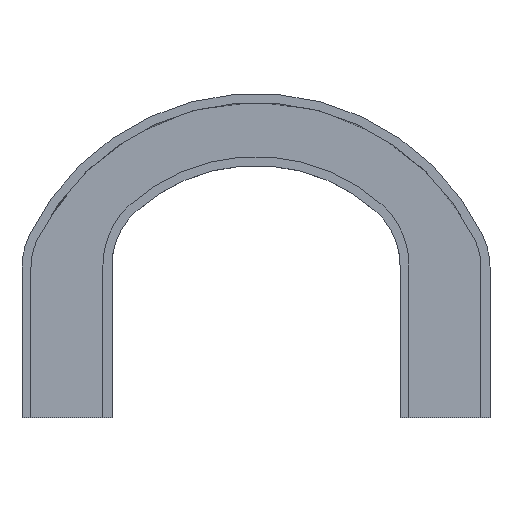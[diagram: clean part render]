
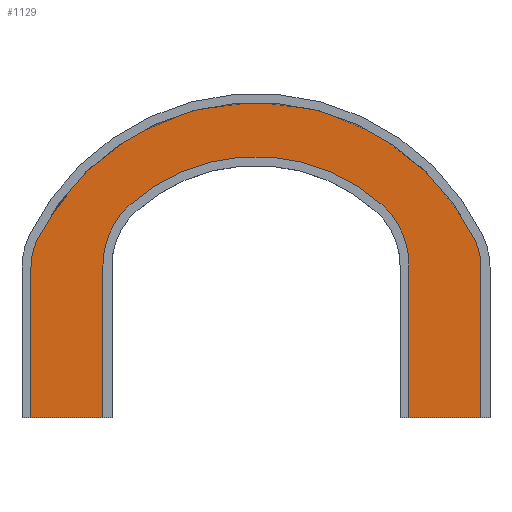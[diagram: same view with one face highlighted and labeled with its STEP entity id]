
A CAD part, top view. The second image highlights one B-rep face of the part: STEP entity #1129.
In plain terms, the highlighted planar face has unit normal (0, 0, 1).
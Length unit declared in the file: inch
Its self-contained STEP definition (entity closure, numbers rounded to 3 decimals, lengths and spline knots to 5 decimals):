
#381=PLANE('',#1196);
#396=CIRCLE('',#1176,1.125);
#398=CIRCLE('',#1181,0.875);
#400=CIRCLE('',#1184,3.375);
#402=CIRCLE('',#1187,0.875);
#404=CIRCLE('',#1192,1.125);
#406=CIRCLE('',#1195,2.625);
#438=FACE_OUTER_BOUND('',#482,.T.);
#482=EDGE_LOOP('',(#961,#962,#963,#964,#965,#966,#967,#968,#969,#970,#971,
#972));
#520=LINE('',#2196,#577);
#523=LINE('',#2204,#580);
#530=LINE('',#2229,#587);
#533=LINE('',#2237,#590);
#536=LINE('',#2249,#593);
#537=LINE('',#2250,#594);
#577=VECTOR('',#1282,0.3937);
#580=VECTOR('',#1287,0.3937);
#587=VECTOR('',#1314,0.3937);
#590=VECTOR('',#1319,0.3937);
#593=VECTOR('',#1336,0.3937);
#594=VECTOR('',#1337,0.3937);
#695=VERTEX_POINT('',#2186);
#696=VERTEX_POINT('',#2188);
#698=VERTEX_POINT('',#2194);
#701=VERTEX_POINT('',#2201);
#702=VERTEX_POINT('',#2203);
#704=VERTEX_POINT('',#2209);
#706=VERTEX_POINT('',#2215);
#708=VERTEX_POINT('',#2221);
#710=VERTEX_POINT('',#2227);
#713=VERTEX_POINT('',#2234);
#714=VERTEX_POINT('',#2236);
#716=VERTEX_POINT('',#2242);
#788=EDGE_CURVE('',#695,#696,#396,.T.);
#792=EDGE_CURVE('',#698,#695,#520,.T.);
#795=EDGE_CURVE('',#701,#702,#523,.T.);
#799=EDGE_CURVE('',#704,#701,#398,.T.);
#802=EDGE_CURVE('',#706,#704,#400,.T.);
#805=EDGE_CURVE('',#708,#706,#402,.T.);
#808=EDGE_CURVE('',#710,#708,#530,.T.);
#811=EDGE_CURVE('',#713,#714,#533,.T.);
#815=EDGE_CURVE('',#716,#713,#404,.T.);
#817=EDGE_CURVE('',#696,#716,#406,.T.);
#818=EDGE_CURVE('',#702,#698,#536,.T.);
#819=EDGE_CURVE('',#714,#710,#537,.T.);
#961=ORIENTED_EDGE('',*,*,#817,.F.);
#962=ORIENTED_EDGE('',*,*,#788,.F.);
#963=ORIENTED_EDGE('',*,*,#792,.F.);
#964=ORIENTED_EDGE('',*,*,#818,.F.);
#965=ORIENTED_EDGE('',*,*,#795,.F.);
#966=ORIENTED_EDGE('',*,*,#799,.F.);
#967=ORIENTED_EDGE('',*,*,#802,.F.);
#968=ORIENTED_EDGE('',*,*,#805,.F.);
#969=ORIENTED_EDGE('',*,*,#808,.F.);
#970=ORIENTED_EDGE('',*,*,#819,.F.);
#971=ORIENTED_EDGE('',*,*,#811,.F.);
#972=ORIENTED_EDGE('',*,*,#815,.F.);
#1129=ADVANCED_FACE('',(#438),#381,.T.);
#1176=AXIS2_PLACEMENT_3D('',#2189,#1275,#1276);
#1181=AXIS2_PLACEMENT_3D('',#2211,#1294,#1295);
#1184=AXIS2_PLACEMENT_3D('',#2217,#1301,#1302);
#1187=AXIS2_PLACEMENT_3D('',#2223,#1308,#1309);
#1192=AXIS2_PLACEMENT_3D('',#2244,#1326,#1327);
#1195=AXIS2_PLACEMENT_3D('',#2247,#1332,#1333);
#1196=AXIS2_PLACEMENT_3D('',#2248,#1334,#1335);
#1275=DIRECTION('center_axis',(0.,0.,1.));
#1276=DIRECTION('ref_axis',(-1.,0.,0.));
#1282=DIRECTION('',(0.,1.,0.));
#1287=DIRECTION('',(0.,-1.,0.));
#1294=DIRECTION('center_axis',(0.,0.,-1.));
#1295=DIRECTION('ref_axis',(1.,0.,0.));
#1301=DIRECTION('center_axis',(0.,0.,-1.));
#1302=DIRECTION('ref_axis',(0.9,0.436,0.));
#1308=DIRECTION('center_axis',(0.,0.,-1.));
#1309=DIRECTION('ref_axis',(-0.9,0.436,0.));
#1314=DIRECTION('',(0.,1.,0.));
#1319=DIRECTION('',(0.,-1.,0.));
#1326=DIRECTION('center_axis',(0.,0.,1.));
#1327=DIRECTION('ref_axis',(0.667,-0.745,0.));
#1332=DIRECTION('center_axis',(0.,0.,1.));
#1333=DIRECTION('ref_axis',(-0.667,-0.745,0.));
#1334=DIRECTION('center_axis',(0.,0.,1.));
#1335=DIRECTION('ref_axis',(1.,0.,0.));
#1336=DIRECTION('',(-1.,0.,0.));
#1337=DIRECTION('',(-1.,0.,0.));
#2186=CARTESIAN_POINT('',(2.125,1.11803,0.1));
#2188=CARTESIAN_POINT('',(1.75,1.95656,0.1));
#2189=CARTESIAN_POINT('Origin',(1.,1.11803,0.1));
#2194=CARTESIAN_POINT('',(2.125,-1.,0.1));
#2196=CARTESIAN_POINT('',(2.125,1.11803,0.1));
#2201=CARTESIAN_POINT('',(3.125,1.08972,0.1));
#2203=CARTESIAN_POINT('',(3.125,-1.,0.1));
#2204=CARTESIAN_POINT('',(3.125,-1.,0.1));
#2209=CARTESIAN_POINT('',(3.0375,1.47113,0.1));
#2211=CARTESIAN_POINT('Origin',(2.25,1.08972,0.1));
#2215=CARTESIAN_POINT('',(-3.0375,1.47113,0.1));
#2217=CARTESIAN_POINT('Origin',(0.,0.,0.1));
#2221=CARTESIAN_POINT('',(-3.125,1.08972,0.1));
#2223=CARTESIAN_POINT('Origin',(-2.25,1.08972,0.1));
#2227=CARTESIAN_POINT('',(-3.125,-1.,0.1));
#2229=CARTESIAN_POINT('',(-3.125,1.08972,0.1));
#2234=CARTESIAN_POINT('',(-2.125,1.11803,0.1));
#2236=CARTESIAN_POINT('',(-2.125,-1.,0.1));
#2237=CARTESIAN_POINT('',(-2.125,-1.,0.1));
#2242=CARTESIAN_POINT('',(-1.75,1.95656,0.1));
#2244=CARTESIAN_POINT('Origin',(-1.,1.11803,0.1));
#2247=CARTESIAN_POINT('Origin',(0.,0.,0.1));
#2248=CARTESIAN_POINT('Origin',(0.,1.1875,0.1));
#2249=CARTESIAN_POINT('',(1.,-1.,0.1));
#2250=CARTESIAN_POINT('',(-1.625,-1.,0.1));
